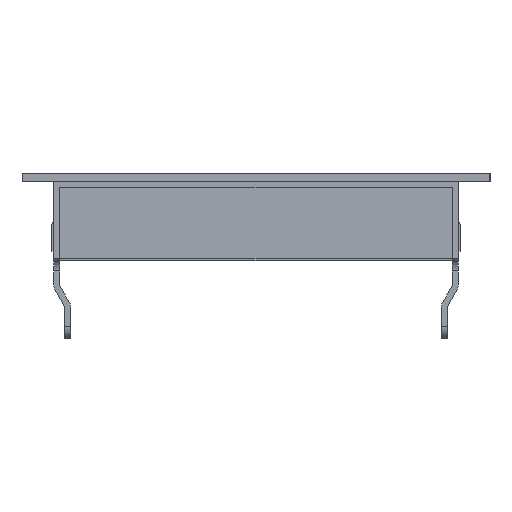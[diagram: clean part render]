
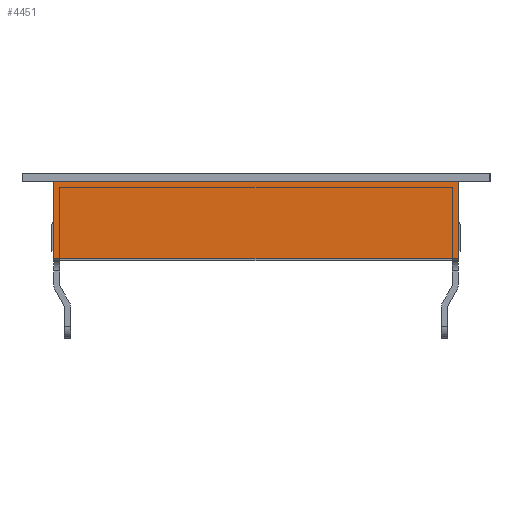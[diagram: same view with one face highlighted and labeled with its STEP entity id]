
A CAD part, left-side view. The second image highlights one B-rep face of the part: STEP entity #4451.
In plain terms, the highlighted planar face has unit normal (-1, 0, 0).
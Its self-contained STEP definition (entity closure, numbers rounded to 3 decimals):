
#375=FACE_OUTER_BOUND('',#603,.T.);
#603=EDGE_LOOP('',(#3600,#3601,#3602,#3603));
#1051=LINE('',#7025,#1583);
#1057=LINE('',#7039,#1589);
#1058=LINE('',#7040,#1590);
#1059=LINE('',#7041,#1591);
#1583=VECTOR('',#5716,304.8);
#1589=VECTOR('',#5728,304.8);
#1590=VECTOR('',#5729,304.8);
#1591=VECTOR('',#5730,304.8);
#2056=VERTEX_POINT('',#7021);
#2058=VERTEX_POINT('',#7024);
#2062=VERTEX_POINT('',#7037);
#2063=VERTEX_POINT('',#7038);
#2627=EDGE_CURVE('',#2058,#2056,#1051,.T.);
#2633=EDGE_CURVE('',#2062,#2063,#1057,.T.);
#2634=EDGE_CURVE('',#2058,#2062,#1058,.T.);
#2635=EDGE_CURVE('',#2063,#2056,#1059,.T.);
#3600=ORIENTED_EDGE('',*,*,#2633,.F.);
#3601=ORIENTED_EDGE('',*,*,#2634,.F.);
#3602=ORIENTED_EDGE('',*,*,#2627,.T.);
#3603=ORIENTED_EDGE('',*,*,#2635,.F.);
#4246=PLANE('',#4765);
#4451=ADVANCED_FACE('',(#375),#4246,.T.);
#4765=AXIS2_PLACEMENT_3D('',#7036,#5726,#5727);
#5716=DIRECTION('',(0.,1.,0.));
#5726=DIRECTION('center_axis',(-1.,0.,0.));
#5727=DIRECTION('ref_axis',(0.,0.,-1.));
#5728=DIRECTION('',(0.,1.,0.));
#5729=DIRECTION('',(0.,0.,-1.));
#5730=DIRECTION('',(0.,0.,1.));
#7021=CARTESIAN_POINT('',(-139.7,49.75,-0.313));
#7024=CARTESIAN_POINT('',(-139.7,-49.75,-0.313));
#7025=CARTESIAN_POINT('',(-139.7,-49.75,-0.313));
#7036=CARTESIAN_POINT('Origin',(-139.7,49.75,-0.313));
#7037=CARTESIAN_POINT('',(-139.7,-49.75,-19.312));
#7038=CARTESIAN_POINT('',(-139.7,49.75,-19.312));
#7039=CARTESIAN_POINT('',(-139.7,-49.75,-19.312));
#7040=CARTESIAN_POINT('',(-139.7,-49.75,-0.313));
#7041=CARTESIAN_POINT('',(-139.7,49.75,-19.312));
